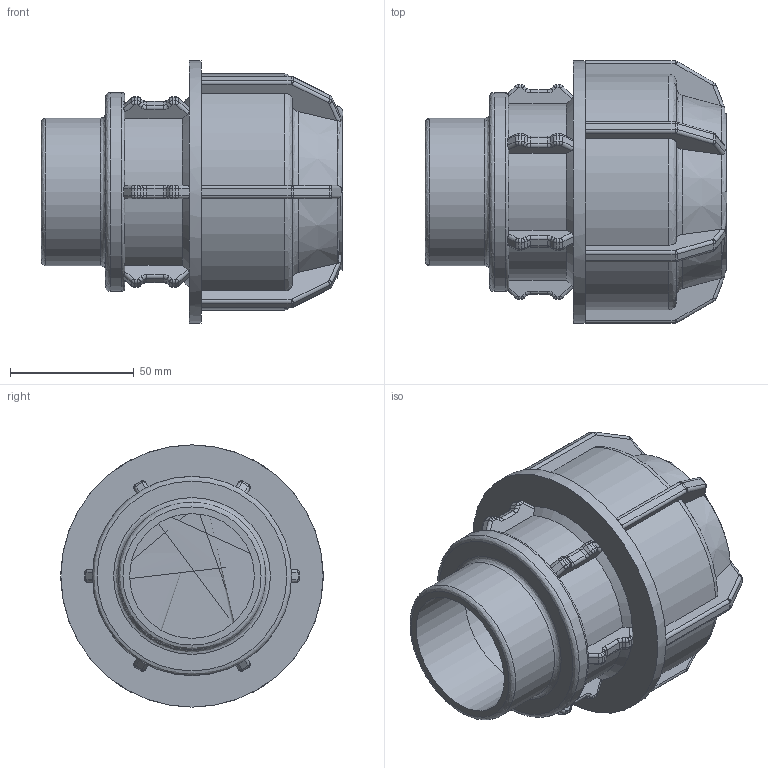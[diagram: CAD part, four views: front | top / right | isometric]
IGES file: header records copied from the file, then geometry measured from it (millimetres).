
Global section: file name: 140200063020.ipt; native system: Autodesk Inventor 2015; preprocessor: unknown; author: KIM; date: 20180409.130950; units: millimetre
Bounding box: 122 x 106 x 106 mm (x, y, z)
Volume: 277459.2 mm3; surface area: 72492.3 mm2
Topology: 1 solids, 1 shells, 469 faces, 1166 edges, 699 vertices
Faces by surface type: cylinder 171, plane 157, revolution 129, cone 12
Full cylindrical faces by diameter (mm): 59.614 x1, 80.479 x1, 106 x1
